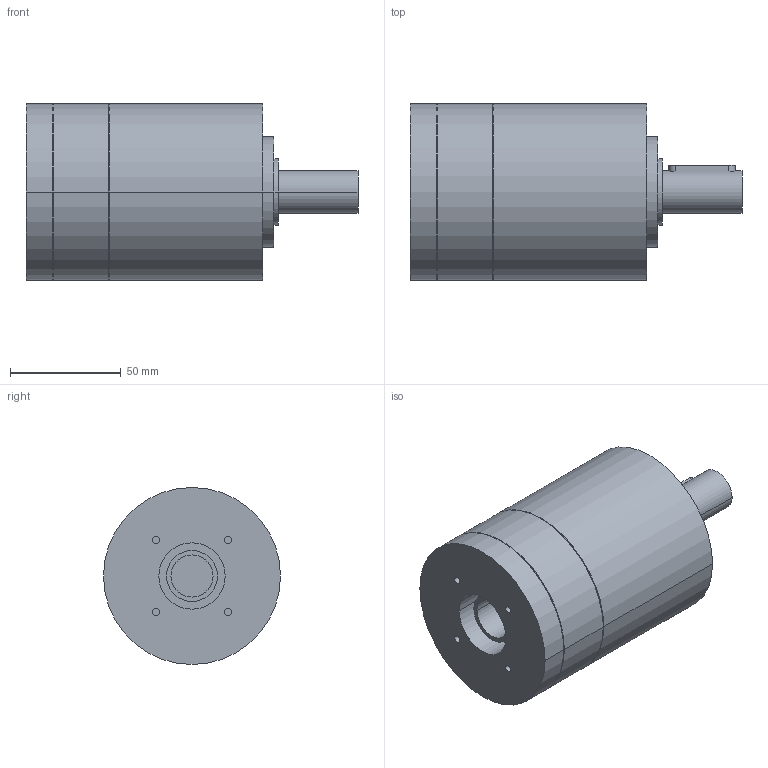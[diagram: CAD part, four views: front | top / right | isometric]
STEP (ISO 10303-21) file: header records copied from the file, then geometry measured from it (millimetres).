
FILE_DESCRIPTION(('CoCreate Modeling STEP Export'),'2;1');
FILE_NAME('GPR100_ig-3-4-5-6_19_B14_19_P24.stp','2014-08-26T10:08:53',(''),(''),'CoCreate Modeling STEP processor for AP214 (Solid Model)','CoCreate Modeling 16.00C 25-Feb-2009 (C) Parametric Technology GmbH','');
FILE_SCHEMA(('AUTOMOTIVE_DESIGN { 1 0 10303 214 1 1 1 1 }'));
Length unit declared in the file: millimetre
Products named in the file (2): GPR100_ig-3-4-5-6_19_B14_19_P24
Assembly tree (1 placements, depth 2):
  GPR100_ig-3-4-5-6_19_B14_19_P24
    GPR100_ig-3-4-5-6_19_B14_19_P24
Bounding box: 150 x 80 x 80 mm (x, y, z)
Volume: 541030.3 mm3; surface area: 46235 mm2
Topology: 1 solids, 1 shells, 65 faces, 162 edges, 114 vertices
Faces by surface type: cylinder 38, plane 21, cone 6
Entity records: 1651 total; most frequent: ORIENTED_EDGE 320, CARTESIAN_POINT 309, DIRECTION 212, EDGE_CURVE 160, VERTEX_POINT 114, EDGE_LOOP 82, AXIS2_PLACEMENT_3D 81, FACE_OUTER_BOUND 65
